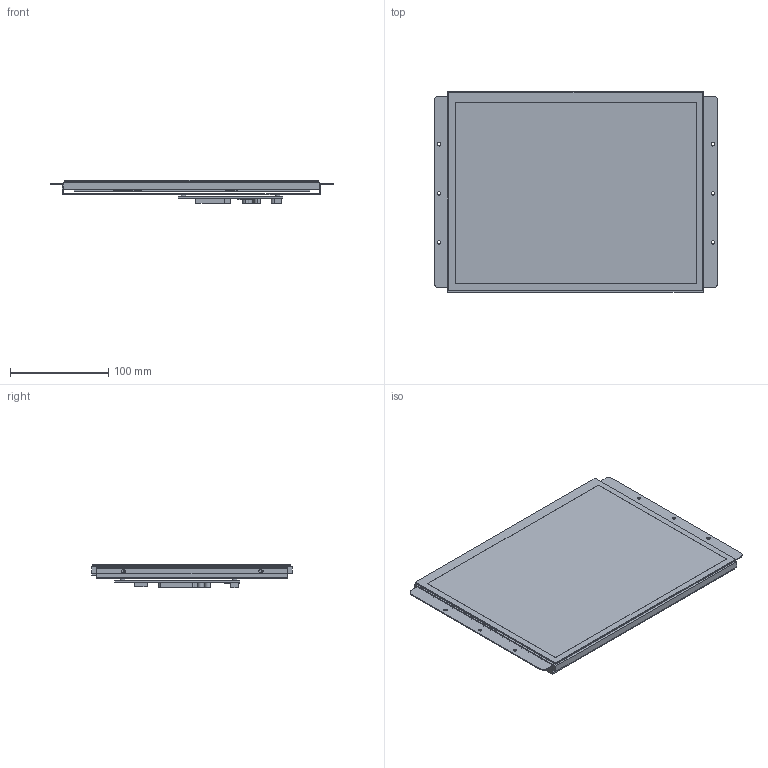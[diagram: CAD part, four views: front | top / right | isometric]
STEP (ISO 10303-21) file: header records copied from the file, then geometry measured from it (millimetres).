
FILE_DESCRIPTION((''),'2;1');
FILE_NAME('3D-DMG10768K121-03WTC','2022-02-22T',('Administrator'),(''),'PRO/ENGINEER BY PARAMETRIC TECHNOLOGY CORPORATION, 2011310','PRO/ENGINEER BY PARAMETRIC TECHNOLOGY CORPORATION, 2011310','');
FILE_SCHEMA(('CONFIG_CONTROL_DESIGN','SHAPE_APPEARANCE_LAYERS_GROUPS'));
Length unit declared in the file: millimetre
Products named in the file (1): 3D-DMG10768K121-03WTC
Bounding box: 289.2 x 204 x 23.9 mm (x, y, z)
Volume: 526803.8 mm3; surface area: 396529.3 mm2
Topology: 2 solids, 2 shells, 244 faces, 622 edges, 414 vertices
Faces by surface type: plane 162, cylinder 82
Entity records: 8501 total; most frequent: CARTESIAN_POINT 1298, DIRECTION 1270, ORIENTED_EDGE 1244, EDGE_CURVE 622, VECTOR 454, LINE 454, VERTEX_POINT 414, AXIS2_PLACEMENT_3D 408
